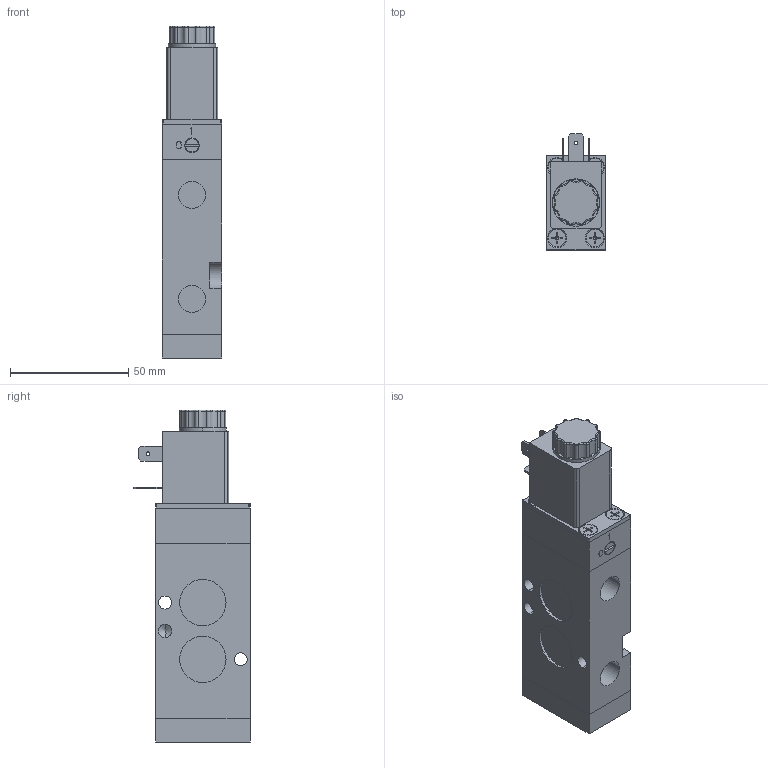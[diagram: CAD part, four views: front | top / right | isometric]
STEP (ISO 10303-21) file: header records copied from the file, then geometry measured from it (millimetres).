
FILE_DESCRIPTION (( 'STEP AP214' ), '1' );
FILE_NAME ('KNX-55-311-HN-F12_Airtec.step', '2019-01-07T10:22:48', ( '' ), ( '' ), 'SwSTEP 2.0', 'SolidWorks 2010', '' );
FILE_SCHEMA (( 'AUTOMOTIVE_DESIGN' ));
Length unit declared in the file: millimetre
Products named in the file (3): Volumenkörper6; Volumenkörper1; KNX-55-311-HN-F12_Airtec
Assembly tree (2 placements, depth 2):
  KNX-55-311-HN-F12_Airtec
    Volumenkörper1
    Volumenkörper6
Bounding box: 25 x 49.2 x 140.5 mm (x, y, z)
Volume: 116731.8 mm3; surface area: 26277.6 mm2
Topology: 2 solids, 2 shells, 688 faces, 1811 edges, 1166 vertices
Faces by surface type: plane 393, cylinder 133, cone 80, torus 66, bspline 16
Entity records: 26639 total; most frequent: CARTESIAN_POINT 5598, ORIENTED_EDGE 3598, DIRECTION 3481, EDGE_CURVE 1799, AXIS2_PLACEMENT_3D 1179, VERTEX_POINT 1166, LINE 1123, VECTOR 1123
